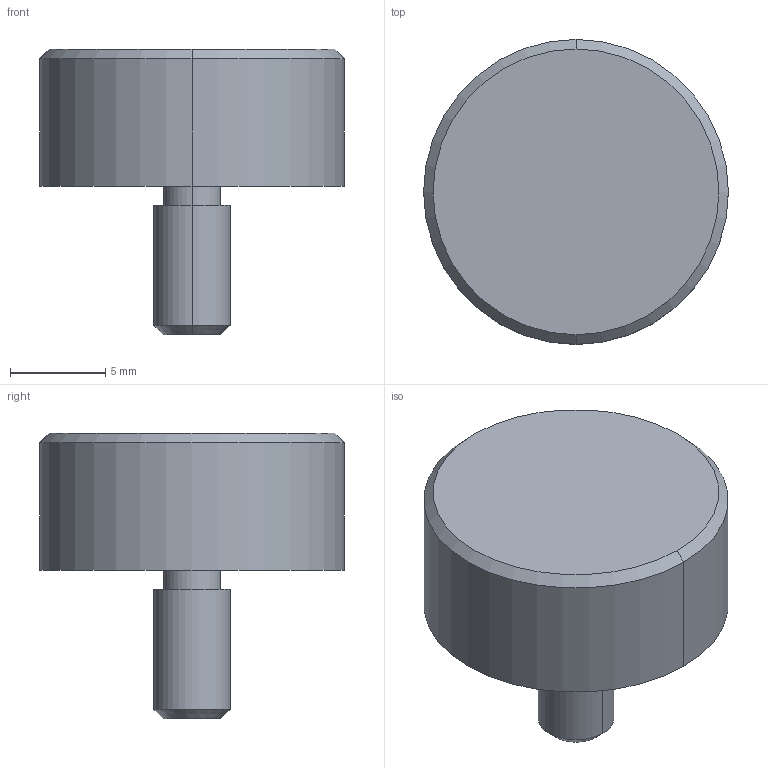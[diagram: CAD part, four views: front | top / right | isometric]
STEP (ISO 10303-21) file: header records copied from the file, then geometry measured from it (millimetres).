
FILE_DESCRIPTION (( 'STEP AP214' ), '1' );
FILE_NAME ('TAEM16M4.STEP', '2022-01-18T07:48:33', ( '' ), ( '' ), 'SwSTEP 2.0', 'SolidWorks 2019', '' );
FILE_SCHEMA (( 'AUTOMOTIVE_DESIGN' ));
Length unit declared in the file: millimetre
Products named in the file (1): TAEM16M4
Bounding box: 16 x 16 x 15 mm (x, y, z)
Volume: 1532.6 mm3; surface area: 850.9 mm2
Topology: 1 solids, 1 shells, 14 faces, 26 edges, 16 vertices
Faces by surface type: cylinder 6, cone 4, plane 4
Entity records: 432 total; most frequent: DIRECTION 72, CARTESIAN_POINT 57, ORIENTED_EDGE 52, AXIS2_PLACEMENT_3D 31, EDGE_CURVE 26, CIRCLE 16, EDGE_LOOP 16, VERTEX_POINT 16
